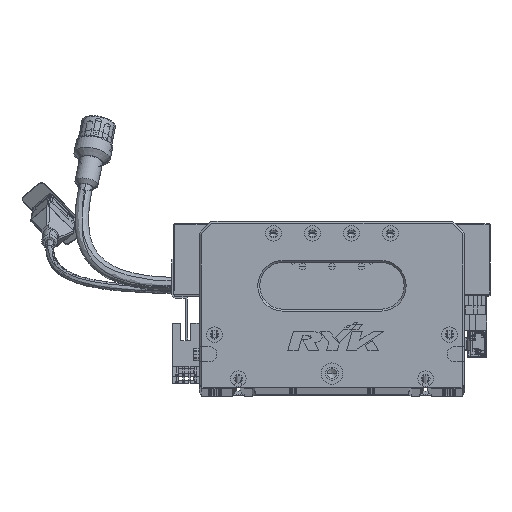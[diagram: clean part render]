
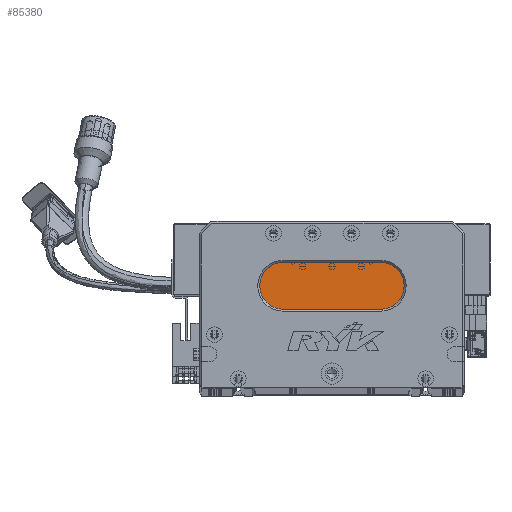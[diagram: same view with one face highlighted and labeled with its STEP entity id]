
A CAD part, top view. The second image highlights one B-rep face of the part: STEP entity #85380.
In plain terms, the highlighted planar face has unit normal (0, 0, 1) as drawn and (0, 0, -1) by its records, which use the part's own axes.
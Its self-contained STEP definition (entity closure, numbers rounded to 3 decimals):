
#1765 = CARTESIAN_POINT ( 'NONE',  ( 93., 52., 13. ) ) ;
#6905 = CARTESIAN_POINT ( 'NONE',  ( 31., 52., 13. ) ) ;
#10471 = AXIS2_PLACEMENT_3D ( 'NONE', #1765, #95825, #49237 ) ;
#14575 = VERTEX_POINT ( 'NONE', #112826 ) ;
#15428 = FACE_OUTER_BOUND ( 'NONE', #70168, .T. ) ;
#17969 = PLANE ( 'NONE',  #22663 ) ;
#18379 = CARTESIAN_POINT ( 'NONE',  ( 93., 52., 13. ) ) ;
#19139 = CIRCLE ( 'NONE', #10471, 12. ) ;
#19898 = VECTOR ( 'NONE', #81528, 1000. ) ;
#21452 = LINE ( 'NONE', #63227, #19898 ) ;
#22663 = AXIS2_PLACEMENT_3D ( 'NONE', #18379, #95338, #85360 ) ;
#23814 = DIRECTION ( 'NONE',  ( -1., 0., 0. ) ) ;
#25076 = DIRECTION ( 'NONE',  ( -1., 0., 0. ) ) ;
#26186 = CARTESIAN_POINT ( 'NONE',  ( 93., 40., 13. ) ) ;
#26851 = AXIS2_PLACEMENT_3D ( 'NONE', #63347, #72541, #25076 ) ;
#27255 = ORIENTED_EDGE ( 'NONE', *, *, #123246, .T. ) ;
#29042 = ORIENTED_EDGE ( 'NONE', *, *, #32927, .T. ) ;
#31403 = DIRECTION ( 'NONE',  ( 1., 0., 0. ) ) ;
#32927 = EDGE_CURVE ( 'NONE', #14575, #70519, #123340, .T. ) ;
#39156 = VERTEX_POINT ( 'NONE', #58058 ) ;
#41638 = AXIS2_PLACEMENT_3D ( 'NONE', #98266, #50900, #23814 ) ;
#46570 = CARTESIAN_POINT ( 'NONE',  ( 93., 64., 13. ) ) ;
#49237 = DIRECTION ( 'NONE',  ( -1., 0., 0. ) ) ;
#49934 = CARTESIAN_POINT ( 'NONE',  ( 43., 64., 13. ) ) ;
#50572 = EDGE_CURVE ( 'NONE', #39156, #83602, #19139, .T. ) ;
#50900 = DIRECTION ( 'NONE',  ( 0., 0., -1. ) ) ;
#56930 = VERTEX_POINT ( 'NONE', #49934 ) ;
#58058 = CARTESIAN_POINT ( 'NONE',  ( 93., 64., 13. ) ) ;
#62207 = LINE ( 'NONE', #46570, #81521 ) ;
#63227 = CARTESIAN_POINT ( 'NONE',  ( 93., 40., 13. ) ) ;
#63347 = CARTESIAN_POINT ( 'NONE',  ( 43., 52., 13. ) ) ;
#70168 = EDGE_LOOP ( 'NONE', ( #81565, #70735, #29042, #115149, #27255 ) ) ;
#70519 = VERTEX_POINT ( 'NONE', #6905 ) ;
#70735 = ORIENTED_EDGE ( 'NONE', *, *, #114288, .T. ) ;
#72541 = DIRECTION ( 'NONE',  ( 0., 0., -1. ) ) ;
#72641 = CIRCLE ( 'NONE', #41638, 12. ) ;
#81521 = VECTOR ( 'NONE', #31403, 1000. ) ;
#81528 = DIRECTION ( 'NONE',  ( -1., 0., 0. ) ) ;
#81565 = ORIENTED_EDGE ( 'NONE', *, *, #50572, .T. ) ;
#83602 = VERTEX_POINT ( 'NONE', #26186 ) ;
#85360 = DIRECTION ( 'NONE',  ( -1., 0., 0. ) ) ;
#85380 = ADVANCED_FACE ( 'NONE', ( #15428 ), #17969, .T. ) ;
#95338 = DIRECTION ( 'NONE',  ( 0., 0., -1. ) ) ;
#95825 = DIRECTION ( 'NONE',  ( 0., 0., -1. ) ) ;
#98266 = CARTESIAN_POINT ( 'NONE',  ( 43., 52., 13. ) ) ;
#111597 = EDGE_CURVE ( 'NONE', #70519, #56930, #72641, .T. ) ;
#112826 = CARTESIAN_POINT ( 'NONE',  ( 43., 40., 13. ) ) ;
#114288 = EDGE_CURVE ( 'NONE', #83602, #14575, #21452, .T. ) ;
#115149 = ORIENTED_EDGE ( 'NONE', *, *, #111597, .T. ) ;
#123246 = EDGE_CURVE ( 'NONE', #56930, #39156, #62207, .T. ) ;
#123340 = CIRCLE ( 'NONE', #26851, 12. ) ;
